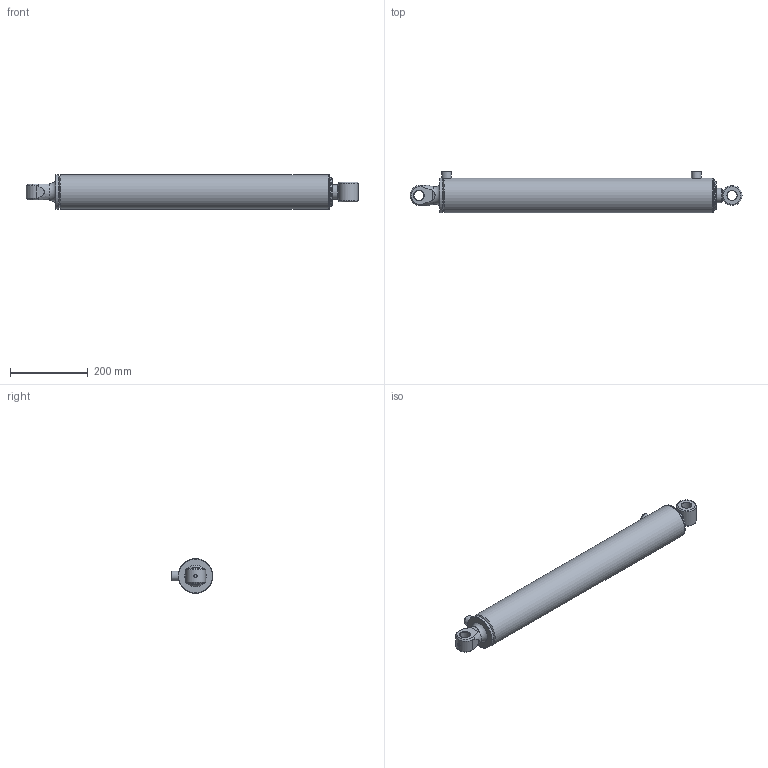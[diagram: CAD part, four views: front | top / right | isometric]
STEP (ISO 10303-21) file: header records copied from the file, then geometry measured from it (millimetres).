
FILE_DESCRIPTION(/* description */ ('Alibre Inc.'),/* implementation_level */ '2;1');
FILE_NAME(/* name */ 'export0',/* time_stamp */ '2016-08-16T10:02:17+12:00',/* author */ (''),/* organization */ (''),/* preprocessor_version */ 'ST-DEVELOPER v14',/* originating_system */ 'Alibre',/* authorisation */ '');
FILE_SCHEMA (('AUTOMOTIVE_DESIGN'));
Length unit declared in the file: centimetre
Bounding box: 853.13 x 106.9 x 88.9 mm (x, y, z)
Volume: 2460398.6 mm3; surface area: 562850.2 mm2
Topology: 12 solids, 12 shells, 157 faces, 332 edges, 209 vertices
Faces by surface type: cylinder 61, plane 57, cone 23, torus 13, sphere 2, bspline 1
Full cylindrical faces by diameter (mm): 7 x1, 8.3 x2, 8.8 x1, 9.525 x2, 15.25 x2, 23 x1, 23.622 x1, 25 x2, 25.4 x2, 25.451 x1, 38.1 x2, 38.18 x2, 44.45 x1, 46.9 x2, 47.62 x2, 50.8 x1, 60.33 x1, 69.2 x1, 70.36 x1, 71.6 x2, 72.57 x2, 72.87 x1, 74.83 x2, 76.09 x2, 76.1 x1, 76.2 x2, 79.4 x1, 88.9 x3
Entity records: 4365 total; most frequent: CARTESIAN_POINT 1210, DIRECTION 599, ORIENTED_EDGE 456, AXIS2_PLACEMENT_3D 310, FACE_BOUND 271, EDGE_LOOP 269, EDGE_CURVE 228, VERTEX_POINT 191
